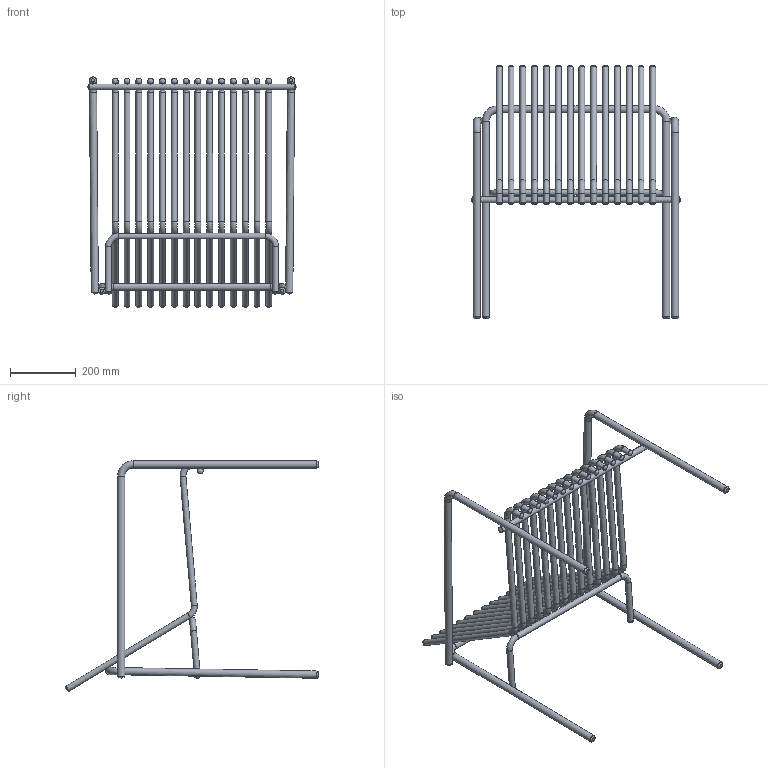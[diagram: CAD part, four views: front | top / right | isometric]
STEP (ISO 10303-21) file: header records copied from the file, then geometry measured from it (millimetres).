
FILE_DESCRIPTION(('STEP AP203'),'1');
FILE_NAME('20211108_Sedia AMALFI Lounge.stp','2022-03-16T12:35:24',(' '),(' '),'Spatial InterOp 3D',' ',' ');
FILE_SCHEMA(('CONFIG_CONTROL_DESIGN'));
Length unit declared in the file: millimetre
Products named in the file (58): 20211108_Sedia AMALFI Lounge; 20211108_Sedia AMALFI Lounge 61; 20211108_Sedia AMALFI Lounge 60; 20211108_Sedia AMALFI Lounge 59; 20211108_Sedia AMALFI Lounge 58; 20211108_Sedia AMALFI Lounge 57; 20211108_Sedia AMALFI Lounge 56; 20211108_Sedia AMALFI Lounge 55; 20211108_Sedia AMALFI Lounge 54; 20211108_Sedia AMALFI Lounge 53; 20211108_Sedia AMALFI Lounge 52; 20211108_Sedia AMALFI Lounge 51; 20211108_Sedia AMALFI Lounge 50; 20211108_Sedia AMALFI Lounge 49; 20211108_Sedia AMALFI Lounge 48; 20211108_Sedia AMALFI Lounge 47; 20211108_Sedia AMALFI Lounge 46; 20211108_Sedia AMALFI Lounge 45; 20211108_Sedia AMALFI Lounge 44; 20211108_Sedia AMALFI Lounge 43; 20211108_Sedia AMALFI Lounge 42; 20211108_Sedia AMALFI Lounge 41; 20211108_Sedia AMALFI Lounge 40; 20211108_Sedia AMALFI Lounge 39; 20211108_Sedia AMALFI Lounge 38; 20211108_Sedia AMALFI Lounge 37; 20211108_Sedia AMALFI Lounge 36; 20211108_Sedia AMALFI Lounge 35; 20211108_Sedia AMALFI Lounge 34; 20211108_Sedia AMALFI Lounge 33; 20211108_Sedia AMALFI Lounge 32; 20211108_Sedia AMALFI Lounge 31; 20211108_Sedia AMALFI Lounge 30; 20211108_Sedia AMALFI Lounge 29; 20211108_Sedia AMALFI Lounge 28; 20211108_Sedia AMALFI Lounge 27; 20211108_Sedia AMALFI Lounge 26; 20211108_Sedia AMALFI Lounge 25; 20211108_Sedia AMALFI Lounge 24; 20211108_Sedia AMALFI Lounge 23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
Assembly tree (57 placements, depth 2):
  20211108_Sedia AMALFI Lounge
    20211108_Sedia AMALFI Lounge 61
    20211108_Sedia AMALFI Lounge 60
    20211108_Sedia AMALFI Lounge 59
    20211108_Sedia AMALFI Lounge 58
    20211108_Sedia AMALFI Lounge 57
    20211108_Sedia AMALFI Lounge 56
    20211108_Sedia AMALFI Lounge 55
    20211108_Sedia AMALFI Lounge 54
    20211108_Sedia AMALFI Lounge 53
    20211108_Sedia AMALFI Lounge 52
    20211108_Sedia AMALFI Lounge 51
    20211108_Sedia AMALFI Lounge 50
    20211108_Sedia AMALFI Lounge 49
    20211108_Sedia AMALFI Lounge 48
    20211108_Sedia AMALFI Lounge 47
    20211108_Sedia AMALFI Lounge 46
    20211108_Sedia AMALFI Lounge 45
    20211108_Sedia AMALFI Lounge 44
    20211108_Sedia AMALFI Lounge 43
    20211108_Sedia AMALFI Lounge 42
    20211108_Sedia AMALFI Lounge 41
    20211108_Sedia AMALFI Lounge 40
    20211108_Sedia AMALFI Lounge 39
    20211108_Sedia AMALFI Lounge 38
    20211108_Sedia AMALFI Lounge 37
    20211108_Sedia AMALFI Lounge 36
    20211108_Sedia AMALFI Lounge 35
    20211108_Sedia AMALFI Lounge 34
    20211108_Sedia AMALFI Lounge 33
    20211108_Sedia AMALFI Lounge 32
    20211108_Sedia AMALFI Lounge 31
    20211108_Sedia AMALFI Lounge 30
    20211108_Sedia AMALFI Lounge 29
    20211108_Sedia AMALFI Lounge 28
    20211108_Sedia AMALFI Lounge 27
    20211108_Sedia AMALFI Lounge 26
    20211108_Sedia AMALFI Lounge 25
    20211108_Sedia AMALFI Lounge 24
    20211108_Sedia AMALFI Lounge 23
    20211108_Sedia AMALFI Lounge 22
    20211108_Sedia AMALFI Lounge 21
    20211108_Sedia AMALFI Lounge 20
    20211108_Sedia AMALFI Lounge 19
    20211108_Sedia AMALFI Lounge 18
    20211108_Sedia AMALFI Lounge 17
    20211108_Sedia AMALFI Lounge 16
    20211108_Sedia AMALFI Lounge 15
    20211108_Sedia AMALFI Lounge 14
    20211108_Sedia AMALFI Lounge 13
    20211108_Sedia AMALFI Lounge 12
    20211108_Sedia AMALFI Lounge 11
    20211108_Sedia AMALFI Lounge 10
    20211108_Sedia AMALFI Lounge 9
    20211108_Sedia AMALFI Lounge 8
    20211108_Sedia AMALFI Lounge 2
    20211108_Sedia AMALFI Lounge 1
    20211108_Sedia AMALFI Lounge 0
Bounding box: 637.87 x 771.68 x 702.07 mm (x, y, z)
Volume: 1518074.5 mm3; surface area: 2106057.9 mm2
Topology: 57 solids, 57 shells, 348 faces, 639 edges, 401 vertices
Faces by surface type: cylinder 144, torus 86, plane 80, sphere 34, bspline 4
Full cylindrical faces by diameter (mm): 14 x5, 15.2 x43, 18 x80, 19.2 x7, 22 x9
Entity records: 10696 total; most frequent: DIRECTION 1424, CARTESIAN_POINT 1134, AXIS2_PLACEMENT_3D 712, EDGE_LOOP 620, ORIENTED_EDGE 620, FACE_OUTER_BOUND 582, ADVANCED_FACE 348, EDGE_CURVE 310
